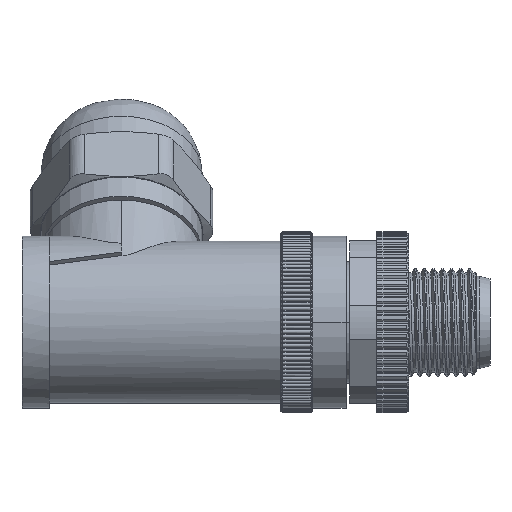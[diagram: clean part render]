
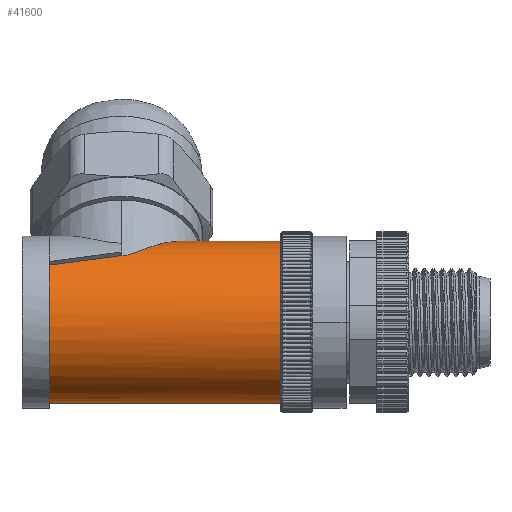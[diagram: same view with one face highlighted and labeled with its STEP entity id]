
A CAD part, left-side view. The second image highlights one B-rep face of the part: STEP entity #41600.
In plain terms, the highlighted cylindrical face has radius 8.95 mm (diameter 17.9 mm), a partial arc.
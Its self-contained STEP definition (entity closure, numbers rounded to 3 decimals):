
#6079=CARTESIAN_POINT('',(0.,4.9,0.));
#6080=DIRECTION('',(0.,1.,0.));
#6081=DIRECTION('',(0.,0.,-1.));
#6082=AXIS2_PLACEMENT_3D('',#6079,#6080,#6081);
#6094=CARTESIAN_POINT('',(0.,4.9,0.));
#6095=DIRECTION('',(0.,1.,0.));
#6096=DIRECTION('',(-0.267,0.,0.964));
#6097=AXIS2_PLACEMENT_3D('',#6094,#6095,#6096);
#9076=DIRECTION('',(0.,1.,0.));
#9077=VECTOR('',#9076,11.485);
#9078=CARTESIAN_POINT('',(0.,4.9,8.95));
#9079=LINE('',#9078,#9077);
#9130=CARTESIAN_POINT('',(0.,4.868,-8.95));
#9131=CARTESIAN_POINT('',(-0.268,4.871,-8.95));
#9132=CARTESIAN_POINT('',(-0.805,4.878,
-8.926));
#9133=CARTESIAN_POINT('',(-1.604,4.889,
-8.817));
#9134=CARTESIAN_POINT('',(-2.128,4.896,
-8.698));
#9135=CARTESIAN_POINT('',(-2.386,4.9,
-8.626));
#9137=DIRECTION('',(0.,1.,0.));
#9138=VECTOR('',#9137,25.6);
#9139=CARTESIAN_POINT('',(0.,4.9,-8.95));
#9140=LINE('',#9139,#9138);
#9141=CARTESIAN_POINT('',(-6.329,30.5,6.329));
#9142=CARTESIAN_POINT('',(-5.944,27.832,6.713));
#9143=CARTESIAN_POINT('',(-5.524,25.166,7.063));
#9144=CARTESIAN_POINT('',(-5.069,22.5,7.376));
#9146=CARTESIAN_POINT('',(-2.386,4.9,8.626));
#9147=CARTESIAN_POINT('',(-2.876,4.893,8.491));
#9148=CARTESIAN_POINT('',(-3.83,4.88,8.138));
#9149=CARTESIAN_POINT('',(-5.156,4.859,7.368));
#9150=CARTESIAN_POINT('',(-6.309,4.839,6.407));
#9151=CARTESIAN_POINT('',(-7.298,4.819,5.254));
#9152=CARTESIAN_POINT('',(-8.078,4.799,3.952));
#9153=CARTESIAN_POINT('',(-8.633,4.779,2.52));
#9154=CARTESIAN_POINT('',(-8.933,4.758,1.034));
#9155=CARTESIAN_POINT('',(-8.979,4.738,
-0.471));
#9156=CARTESIAN_POINT('',(-8.779,4.719,
-1.946));
#9157=CARTESIAN_POINT('',(-8.322,4.698,
-3.411));
#9158=CARTESIAN_POINT('',(-7.626,4.678,
-4.768));
#9159=CARTESIAN_POINT('',(-6.705,4.658,
-5.992));
#9160=CARTESIAN_POINT('',(-5.627,4.638,
-7.013));
#9161=CARTESIAN_POINT('',(-4.367,4.618,
-7.862));
#9162=CARTESIAN_POINT('',(-2.971,4.597,
-8.489));
#9163=CARTESIAN_POINT('',(-1.49,4.577,
-8.868));
#9164=CARTESIAN_POINT('',(-0.494,4.564,-8.95));
#9165=CARTESIAN_POINT('',(0.,4.557,-8.95));
#9167=DIRECTION('',(0.,1.,0.));
#9168=VECTOR('',#9167,0.311);
#9169=CARTESIAN_POINT('',(0.,4.557,-8.95));
#9170=LINE('',#9169,#9168);
#9198=CARTESIAN_POINT('',(0.,4.868,-8.95));
#9226=CARTESIAN_POINT('',(-2.386,4.9,8.626));
#11165=CARTESIAN_POINT('',(0.,30.5,0.));
#11166=DIRECTION('',(0.,-1.,0.));
#11167=DIRECTION('',(-0.707,0.,0.707));
#11168=AXIS2_PLACEMENT_3D('',#11165,#11166,#11167);
#11228=CARTESIAN_POINT('',(0.,16.385,
8.95));
#11229=CARTESIAN_POINT('',(-0.256,16.573,
8.95));
#11230=CARTESIAN_POINT('',(-0.754,16.954,
8.929));
#11231=CARTESIAN_POINT('',(-1.48,17.56,
8.836));
#11232=CARTESIAN_POINT('',(-2.112,18.133,
8.704));
#11233=CARTESIAN_POINT('',(-2.635,18.641,
8.558));
#11234=CARTESIAN_POINT('',(-3.088,19.111,
8.404));
#11235=CARTESIAN_POINT('',(-3.476,19.543,
8.25));
#11236=CARTESIAN_POINT('',(-3.811,19.94,
8.101));
#11237=CARTESIAN_POINT('',(-4.099,20.309,
7.958));
#11238=CARTESIAN_POINT('',(-4.344,20.652,
7.826));
#11239=CARTESIAN_POINT('',(-4.551,20.971,
7.708));
#11240=CARTESIAN_POINT('',(-4.721,21.271,
7.604));
#11241=CARTESIAN_POINT('',(-4.856,21.551,
7.519));
#11242=CARTESIAN_POINT('',(-4.956,21.812,
7.453));
#11243=CARTESIAN_POINT('',(-5.023,22.056,
7.407));
#11244=CARTESIAN_POINT('',(-5.061,22.286,
7.381));
#11245=CARTESIAN_POINT('',(-5.069,22.43,
7.376));
#11246=CARTESIAN_POINT('',(-5.069,22.5,7.376));
#31608=CARTESIAN_POINT('',(0.,4.9,8.95));
#31609=CARTESIAN_POINT('',(0.,4.9,-8.95));
#31610=VERTEX_POINT('',#31608);
#31611=VERTEX_POINT('',#31609);
#31612=CARTESIAN_POINT('',(-2.386,4.9,-8.626));
#31613=VERTEX_POINT('',#31612);
#31619=VERTEX_POINT('',#9226);
#31621=VERTEX_POINT('',#9198);
#31622=CARTESIAN_POINT('',(0.,4.557,-8.95));
#31623=VERTEX_POINT('',#31622);
#31632=CARTESIAN_POINT('',(0.,16.385,
8.95));
#31633=VERTEX_POINT('',#31632);
#31637=CARTESIAN_POINT('',(0.,30.5,-8.95));
#31638=VERTEX_POINT('',#31637);
#31665=CARTESIAN_POINT('',(-6.329,30.5,6.329));
#31666=VERTEX_POINT('',#31665);
#31667=VERTEX_POINT('',#9144);
#41577=CARTESIAN_POINT('',(0.,33.5,0.));
#41578=DIRECTION('',(0.,-1.,0.));
#41579=DIRECTION('',(0.,0.,-1.));
#41580=AXIS2_PLACEMENT_3D('',#41577,#41578,#41579);
#41581=CYLINDRICAL_SURFACE('',#41580,8.95);
#41583=ORIENTED_EDGE('',*,*,#41582,.T.);
#41584=ORIENTED_EDGE('',*,*,#38087,.F.);
#41585=ORIENTED_EDGE('',*,*,#41572,.T.);
#41587=ORIENTED_EDGE('',*,*,#41586,.F.);
#41589=ORIENTED_EDGE('',*,*,#41588,.T.);
#41591=ORIENTED_EDGE('',*,*,#41590,.F.);
#41592=ORIENTED_EDGE('',*,*,#41562,.F.);
#41593=ORIENTED_EDGE('',*,*,#38097,.F.);
#41595=ORIENTED_EDGE('',*,*,#41594,.T.);
#41597=ORIENTED_EDGE('',*,*,#41596,.T.);
#41598=EDGE_LOOP('',(#41583,#41584,#41585,#41587,#41589,#41591,#41592,#41593,
#41595,#41597));
#41599=FACE_OUTER_BOUND('',#41598,.F.);
#41600=ADVANCED_FACE('',(#41599),#41581,.T.);
#6083=CIRCLE('',#6082,8.95);
#6098=CIRCLE('',#6097,8.95);
#9136=B_SPLINE_CURVE_WITH_KNOTS('',3,(#9130,#9131,#9132,#9133,#9134,#9135),
.UNSPECIFIED.,.F.,.F.,(4,1,1,4),(0.,0.333,0.667,1.),
.UNSPECIFIED.);
#9145=B_SPLINE_CURVE_WITH_KNOTS('',3,(#9141,#9142,#9143,#9144),.UNSPECIFIED.,
.F.,.F.,(4,4),(0.,1.),.UNSPECIFIED.);
#9166=B_SPLINE_CURVE_WITH_KNOTS('',3,(#9146,#9147,#9148,#9149,#9150,#9151,#9152,
#9153,#9154,#9155,#9156,#9157,#9158,#9159,#9160,#9161,#9162,#9163,#9164,#9165),
.UNSPECIFIED.,.F.,.F.,(4,1,1,1,1,1,1,1,1,1,1,1,1,1,1,1,1,4),(0.,
0.059,0.118,0.176,0.235,
0.294,0.353,0.412,0.471,
0.529,0.588,0.647,0.706,
0.765,0.824,0.882,0.941,1.),
.UNSPECIFIED.);
#11169=CIRCLE('',#11168,8.95);
#11247=B_SPLINE_CURVE_WITH_KNOTS('',3,(#11228,#11229,#11230,#11231,#11232,
#11233,#11234,#11235,#11236,#11237,#11238,#11239,#11240,#11241,#11242,#11243,
#11244,#11245,#11246),.UNSPECIFIED.,.F.,.F.,(4,1,1,1,1,1,1,1,1,1,1,1,1,1,1,1,4),
(0.,0.063,0.125,0.188,0.25,0.313,0.375,0.438,0.5,0.563,
0.625,0.688,0.75,0.813,0.875,0.938,1.),.UNSPECIFIED.);
#38087=EDGE_CURVE('',#31611,#31613,#6083,.T.);
#38097=EDGE_CURVE('',#31619,#31610,#6098,.T.);
#41562=EDGE_CURVE('',#31610,#31633,#9079,.T.);
#41572=EDGE_CURVE('',#31611,#31638,#9140,.T.);
#41582=EDGE_CURVE('',#31621,#31613,#9136,.T.);
#41586=EDGE_CURVE('',#31666,#31638,#11169,.T.);
#41588=EDGE_CURVE('',#31666,#31667,#9145,.T.);
#41590=EDGE_CURVE('',#31633,#31667,#11247,.T.);
#41594=EDGE_CURVE('',#31619,#31623,#9166,.T.);
#41596=EDGE_CURVE('',#31623,#31621,#9170,.T.);
